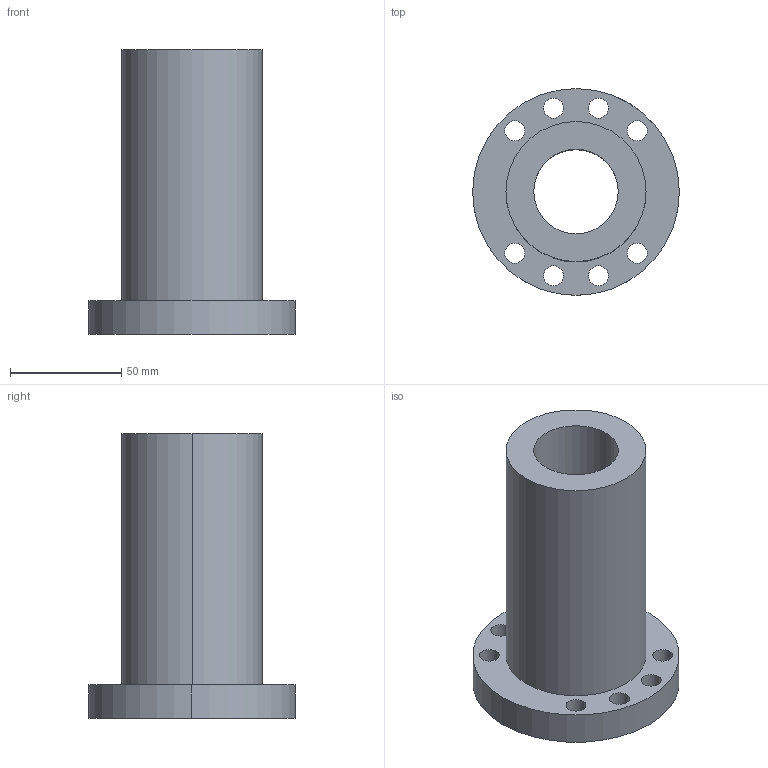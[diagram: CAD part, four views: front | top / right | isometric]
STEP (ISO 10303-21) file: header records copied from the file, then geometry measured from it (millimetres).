
FILE_DESCRIPTION((''),'2;1');
FILE_NAME('A1101WA1','2018-09-06T',('chw'),(''),'PRO/ENGINEER BY PARAMETRIC TECHNOLOGY CORPORATION, 2012200','PRO/ENGINEER BY PARAMETRIC TECHNOLOGY CORPORATION, 2012200','');
FILE_SCHEMA(('CONFIG_CONTROL_DESIGN'));
Length unit declared in the file: millimetre
Products named in the file (1): A1101WA1
Bounding box: 93 x 93 x 128 mm (x, y, z)
Volume: 299956.1 mm3; surface area: 56314.3 mm2
Topology: 1 solids, 1 shells, 27 faces, 72 edges, 48 vertices
Faces by surface type: cylinder 24, plane 3
Entity records: 992 total; most frequent: CARTESIAN_POINT 199, DIRECTION 166, ORIENTED_EDGE 144, EDGE_CURVE 72, AXIS2_PLACEMENT_3D 71, VERTEX_POINT 48, EDGE_LOOP 48, CIRCLE 44
